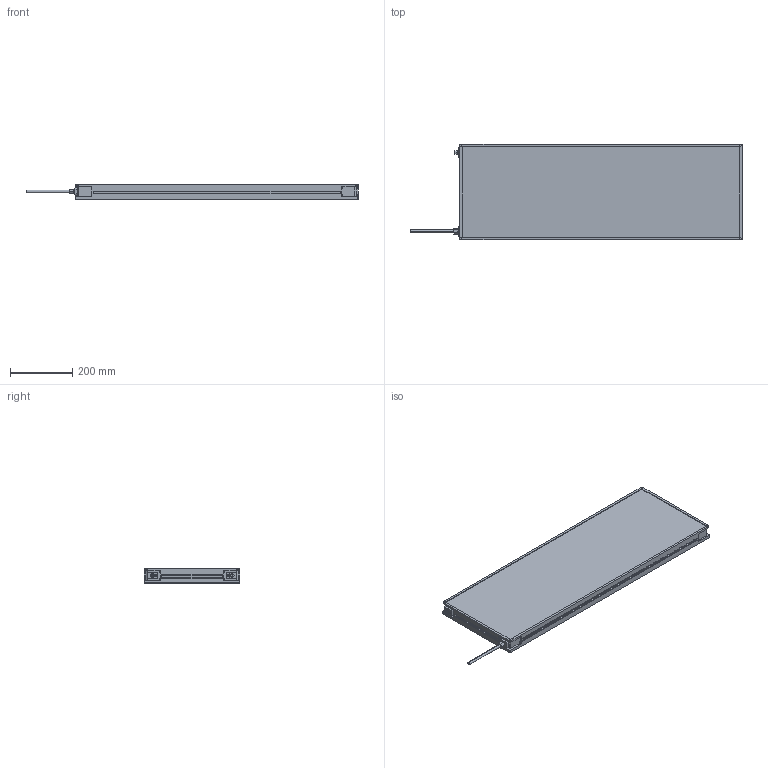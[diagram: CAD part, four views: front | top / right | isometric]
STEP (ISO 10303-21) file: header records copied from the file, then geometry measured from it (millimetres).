
FILE_DESCRIPTION (( 'STEP AP214' ), '1' );
FILE_NAME ('MBACK-xxxx-xxx-M1A2_CLIENT300x900.STEP', '2022-04-01T11:35:26', ( '' ), ( '' ), 'SwSTEP 2.0', 'SolidWorks 2020', '' );
FILE_SCHEMA (( 'AUTOMOTIVE_DESIGN' ));
Length unit declared in the file: millimetre
Products named in the file (1): MBACK-xxxx-xxx-M1A2_CLIENT300x900
Bounding box: 1067.4 x 308 x 45.5 mm (x, y, z)
Volume: 11608949 mm3; surface area: 726712.8 mm2
Topology: 1 solids, 1 shells, 470 faces, 1210 edges, 804 vertices
Faces by surface type: plane 265, cylinder 117, bspline 80, cone 8
Entity records: 18046 total; most frequent: CARTESIAN_POINT 6837, ORIENTED_EDGE 2420, DIRECTION 2082, EDGE_CURVE 1210, VERTEX_POINT 804, LINE 800, VECTOR 800, AXIS2_PLACEMENT_3D 641
